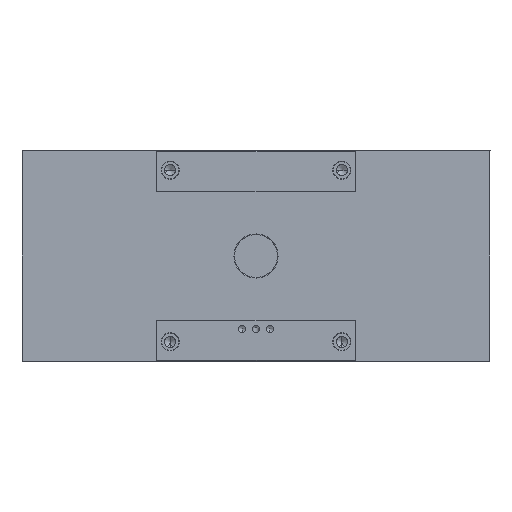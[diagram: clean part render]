
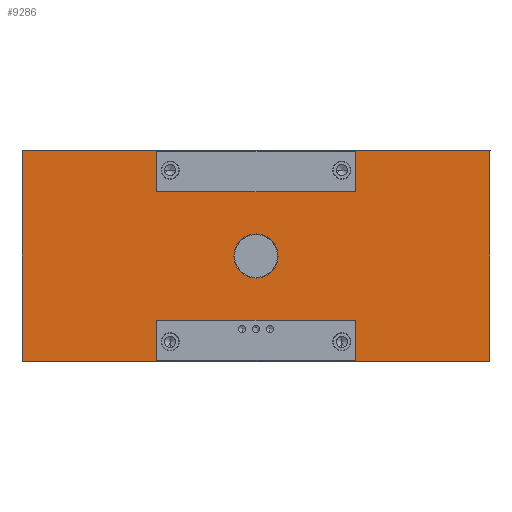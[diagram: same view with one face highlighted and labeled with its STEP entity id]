
A CAD part, front view. The second image highlights one B-rep face of the part: STEP entity #9286.
In plain terms, the highlighted planar face has unit normal (0, -1, 0).
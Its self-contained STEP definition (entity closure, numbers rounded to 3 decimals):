
#317 = DIRECTION ( 'NONE',  ( 0., 0., -1. ) ) ;
#1007 = AXIS2_PLACEMENT_3D ( 'NONE', #13239, #41706, #17357 ) ;
#1162 = EDGE_LOOP ( 'NONE', ( #5642, #10556 ) ) ;
#3319 = LINE ( 'NONE', #47443, #44112 ) ;
#3417 = EDGE_CURVE ( 'NONE', #6902, #26365, #23126, .T. ) ;
#3485 = EDGE_CURVE ( 'NONE', #26365, #42294, #19280, .T. ) ;
#3861 = DIRECTION ( 'NONE',  ( 0., 0., -1. ) ) ;
#4355 = CARTESIAN_POINT ( 'NONE',  ( 92.5, 1., 60. ) ) ;
#4442 = VECTOR ( 'NONE', #8481, 1000. ) ;
#5287 = VERTEX_POINT ( 'NONE', #52435 ) ;
#5642 = ORIENTED_EDGE ( 'NONE', *, *, #19863, .F. ) ;
#5676 = EDGE_CURVE ( 'NONE', #42405, #24721, #30762, .T. ) ;
#6285 = EDGE_LOOP ( 'NONE', ( #24711, #7417, #50460, #18163, #50639, #16846, #21272, #9767, #47772, #14138, #7047, #20454 ) ) ;
#6902 = VERTEX_POINT ( 'NONE', #23622 ) ;
#7047 = ORIENTED_EDGE ( 'NONE', *, *, #19261, .F. ) ;
#7256 = CARTESIAN_POINT ( 'NONE',  ( 218., 1., -60. ) ) ;
#7394 = DIRECTION ( 'NONE',  ( 1., 0., 0. ) ) ;
#7417 = ORIENTED_EDGE ( 'NONE', *, *, #23855, .F. ) ;
#7613 = AXIS2_PLACEMENT_3D ( 'NONE', #43569, #23343, #51705 ) ;
#7885 = EDGE_CURVE ( 'NONE', #24721, #36235, #42076, .T. ) ;
#8481 = DIRECTION ( 'NONE',  ( 0., 0., 1. ) ) ;
#8872 = FACE_OUTER_BOUND ( 'NONE', #6285, .T. ) ;
#9286 = ADVANCED_FACE ( 'NONE', ( #8872, #19783 ), #35442, .F. ) ;
#9767 = ORIENTED_EDGE ( 'NONE', *, *, #45628, .F. ) ;
#10307 = VERTEX_POINT ( 'NONE', #28897 ) ;
#10556 = ORIENTED_EDGE ( 'NONE', *, *, #29347, .F. ) ;
#10774 = CARTESIAN_POINT ( 'NONE',  ( 218., 1., -98. ) ) ;
#11680 = DIRECTION ( 'NONE',  ( 0., 0., 1. ) ) ;
#12671 = VECTOR ( 'NONE', #35144, 1000. ) ;
#13239 = CARTESIAN_POINT ( 'NONE',  ( 0., 1., 0. ) ) ;
#13819 = VERTEX_POINT ( 'NONE', #29823 ) ;
#14138 = ORIENTED_EDGE ( 'NONE', *, *, #3417, .F. ) ;
#15860 = CARTESIAN_POINT ( 'NONE',  ( 218., 1., 60. ) ) ;
#16327 = VECTOR ( 'NONE', #24052, 1000. ) ;
#16846 = ORIENTED_EDGE ( 'NONE', *, *, #7885, .F. ) ;
#17227 = CARTESIAN_POINT ( 'NONE',  ( -218., 1., 60. ) ) ;
#17357 = DIRECTION ( 'NONE',  ( 0., 0., -1. ) ) ;
#17381 = CIRCLE ( 'NONE', #1007, 20.5 ) ;
#18163 = ORIENTED_EDGE ( 'NONE', *, *, #31799, .F. ) ;
#19261 = EDGE_CURVE ( 'NONE', #5287, #6902, #3319, .T. ) ;
#19280 = LINE ( 'NONE', #43605, #20580 ) ;
#19783 = FACE_BOUND ( 'NONE', #1162, .T. ) ;
#19863 = EDGE_CURVE ( 'NONE', #34712, #46956, #17381, .T. ) ;
#20454 = ORIENTED_EDGE ( 'NONE', *, *, #44422, .F. ) ;
#20580 = VECTOR ( 'NONE', #51917, 1000. ) ;
#21272 = ORIENTED_EDGE ( 'NONE', *, *, #5676, .F. ) ;
#21369 = DIRECTION ( 'NONE',  ( 0., 0., 1. ) ) ;
#21790 = VECTOR ( 'NONE', #3861, 1000. ) ;
#21909 = LINE ( 'NONE', #17227, #44762 ) ;
#22131 = CARTESIAN_POINT ( 'NONE',  ( -92.5, 1., -60. ) ) ;
#23077 = AXIS2_PLACEMENT_3D ( 'NONE', #49070, #24817, #317 ) ;
#23126 = LINE ( 'NONE', #34795, #32683 ) ;
#23318 = DIRECTION ( 'NONE',  ( -1., 0., 0. ) ) ;
#23343 = DIRECTION ( 'NONE',  ( 0., 1., 0. ) ) ;
#23430 = LINE ( 'NONE', #10774, #24724 ) ;
#23549 = LINE ( 'NONE', #31082, #12671 ) ;
#23622 = CARTESIAN_POINT ( 'NONE',  ( -92.5, 1., 98. ) ) ;
#23727 = DIRECTION ( 'NONE',  ( -1., 0., 0. ) ) ;
#23855 = EDGE_CURVE ( 'NONE', #29541, #51841, #23549, .T. ) ;
#23966 = CARTESIAN_POINT ( 'NONE',  ( -92.5, 1., -98. ) ) ;
#24052 = DIRECTION ( 'NONE',  ( -1., 0., 0. ) ) ;
#24711 = ORIENTED_EDGE ( 'NONE', *, *, #51202, .F. ) ;
#24721 = VERTEX_POINT ( 'NONE', #41250 ) ;
#24724 = VECTOR ( 'NONE', #23318, 1000. ) ;
#24817 = DIRECTION ( 'NONE',  ( 0., -1., 0. ) ) ;
#26365 = VERTEX_POINT ( 'NONE', #43133 ) ;
#26638 = CARTESIAN_POINT ( 'NONE',  ( 0., 1., 20.5 ) ) ;
#27566 = CARTESIAN_POINT ( 'NONE',  ( -218., 1., -98. ) ) ;
#28300 = LINE ( 'NONE', #7256, #37799 ) ;
#28474 = CIRCLE ( 'NONE', #23077, 20.5 ) ;
#28649 = CARTESIAN_POINT ( 'NONE',  ( 218., 1., 98. ) ) ;
#28763 = CARTESIAN_POINT ( 'NONE',  ( 92.5, 1., 60. ) ) ;
#28897 = CARTESIAN_POINT ( 'NONE',  ( 92.5, 1., -60. ) ) ;
#29347 = EDGE_CURVE ( 'NONE', #46956, #34712, #28474, .T. ) ;
#29494 = VECTOR ( 'NONE', #36282, 1000. ) ;
#29541 = VERTEX_POINT ( 'NONE', #22131 ) ;
#29823 = CARTESIAN_POINT ( 'NONE',  ( 92.5, 1., -98. ) ) ;
#30762 = LINE ( 'NONE', #28649, #29494 ) ;
#31082 = CARTESIAN_POINT ( 'NONE',  ( -92.5, 1., 60. ) ) ;
#31799 = EDGE_CURVE ( 'NONE', #13819, #10307, #35748, .T. ) ;
#32413 = CARTESIAN_POINT ( 'NONE',  ( 0., 1., -20.5 ) ) ;
#32683 = VECTOR ( 'NONE', #42726, 1000. ) ;
#34563 = LINE ( 'NONE', #36119, #46586 ) ;
#34712 = VERTEX_POINT ( 'NONE', #32413 ) ;
#34795 = CARTESIAN_POINT ( 'NONE',  ( -92.5, 1., 60. ) ) ;
#35144 = DIRECTION ( 'NONE',  ( 0., 0., -1. ) ) ;
#35442 = PLANE ( 'NONE',  #7613 ) ;
#35748 = LINE ( 'NONE', #4355, #4442 ) ;
#35959 = CARTESIAN_POINT ( 'NONE',  ( 218., 1., -98. ) ) ;
#36119 = CARTESIAN_POINT ( 'NONE',  ( 92.5, 1., 60. ) ) ;
#36235 = VERTEX_POINT ( 'NONE', #43218 ) ;
#36282 = DIRECTION ( 'NONE',  ( 1., 0., 0. ) ) ;
#37536 = EDGE_CURVE ( 'NONE', #36235, #13819, #47464, .T. ) ;
#37799 = VECTOR ( 'NONE', #23727, 1000. ) ;
#41250 = CARTESIAN_POINT ( 'NONE',  ( 218., 1., 98. ) ) ;
#41706 = DIRECTION ( 'NONE',  ( 0., -1., 0. ) ) ;
#41790 = VERTEX_POINT ( 'NONE', #27566 ) ;
#42076 = LINE ( 'NONE', #15860, #21790 ) ;
#42294 = VERTEX_POINT ( 'NONE', #28763 ) ;
#42405 = VERTEX_POINT ( 'NONE', #50009 ) ;
#42705 = EDGE_CURVE ( 'NONE', #10307, #29541, #28300, .T. ) ;
#42726 = DIRECTION ( 'NONE',  ( 0., 0., -1. ) ) ;
#43133 = CARTESIAN_POINT ( 'NONE',  ( -92.5, 1., 60. ) ) ;
#43218 = CARTESIAN_POINT ( 'NONE',  ( 218., 1., -98. ) ) ;
#43569 = CARTESIAN_POINT ( 'NONE',  ( 218., 1., 60. ) ) ;
#43605 = CARTESIAN_POINT ( 'NONE',  ( 218., 1., 60. ) ) ;
#44112 = VECTOR ( 'NONE', #7394, 1000. ) ;
#44422 = EDGE_CURVE ( 'NONE', #41790, #5287, #21909, .T. ) ;
#44762 = VECTOR ( 'NONE', #21369, 1000. ) ;
#45628 = EDGE_CURVE ( 'NONE', #42294, #42405, #34563, .T. ) ;
#46586 = VECTOR ( 'NONE', #11680, 1000. ) ;
#46956 = VERTEX_POINT ( 'NONE', #26638 ) ;
#47443 = CARTESIAN_POINT ( 'NONE',  ( 218., 1., 98. ) ) ;
#47464 = LINE ( 'NONE', #35959, #16327 ) ;
#47772 = ORIENTED_EDGE ( 'NONE', *, *, #3485, .F. ) ;
#49070 = CARTESIAN_POINT ( 'NONE',  ( 0., 1., 0. ) ) ;
#50009 = CARTESIAN_POINT ( 'NONE',  ( 92.5, 1., 98. ) ) ;
#50460 = ORIENTED_EDGE ( 'NONE', *, *, #42705, .F. ) ;
#50639 = ORIENTED_EDGE ( 'NONE', *, *, #37536, .F. ) ;
#51202 = EDGE_CURVE ( 'NONE', #51841, #41790, #23430, .T. ) ;
#51705 = DIRECTION ( 'NONE',  ( 0., 0., 1. ) ) ;
#51841 = VERTEX_POINT ( 'NONE', #23966 ) ;
#51917 = DIRECTION ( 'NONE',  ( 1., 0., 0. ) ) ;
#52435 = CARTESIAN_POINT ( 'NONE',  ( -218., 1., 98. ) ) ;
